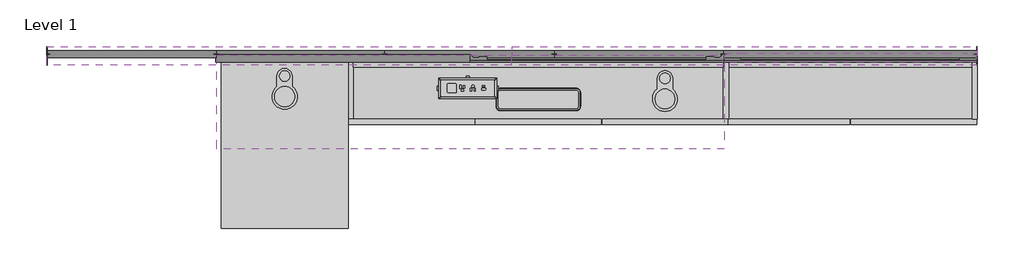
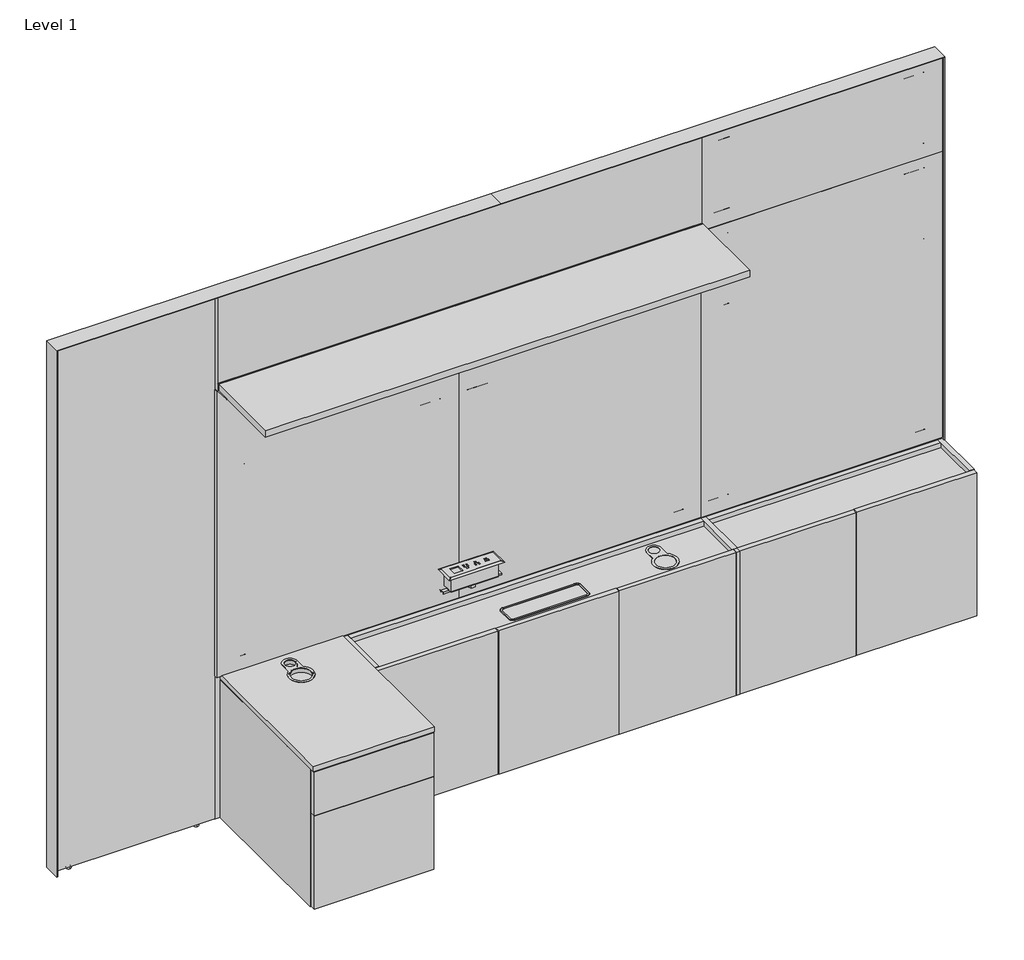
# One storey, incomplete: 19 furniture elements.
"""IFC4 building model written with IfcOpenShell, lengths in millimetres."""

from ifc_helpers import new_model, si_unit, origin, place, context, project, spatial, transform, mapped, element, save
from components import furniture_a66f4f8e, furniture_62f48795, furniture_27fb7ee5, furniture_565fbe1d, furniture_c23576bc, furniture_d3c6f52b, furniture_e45f25e7, furniture_9a9e18b9, furniture_a181dc65, furniture_5eae95e6, furniture_95511676, furniture_5a98c0b4, in_surface_33791ff7

model = new_model("IFC4")

# Units and contexts
model_context = context("Model", 3, world=origin())
ifc_project = project(units=[si_unit("LENGTHUNIT", "METRE", prefix="MILLI")], contexts=[model_context])

# Site, building, storey
site = spatial("IfcSite", under=ifc_project)
building = spatial("IfcBuilding", under=site)
storey = spatial("IfcBuildingStorey", under=building, Name="Level 1", Elevation=0.0)

# Furniture
placement = place(None, origin())
furniture_shape = furniture_a66f4f8e(model_context)
element("IfcFurniture", 1, ObjectType="Geiger_GeigerOneCasegoods_WallFrameStandardApplication : 24Wx1Dx82.5H", at=placement, inside=storey, context=model_context, shape_type="MappedRepresentation", body=[
    mapped(furniture_shape, transform((-336.603929, 19534.5743264, -2.4667457), x_axis=(1.0, 0.0, 0.0), y_axis=(0.0, 1.0, 0.0), z_axis=(0.0, 0.0, 1.0))),
])
element("IfcFurniture", 2, ObjectType="Geiger_GeigerOneCasegoods_WallFrameStandardApplication : 24Wx1Dx82.5H", at=placement, inside=storey, context=model_context, shape_type="MappedRepresentation", body=[
    mapped(furniture_shape, transform((272.996071, 19534.5743264, -2.4667457), x_axis=(1.0, 0.0, 0.0), y_axis=(0.0, 1.0, 0.0), z_axis=(0.0, 0.0, 1.0))),
])
element("IfcFurniture", 3, ObjectType="Geiger_GeigerOneCasegoods_WallFrameStandardApplication : 24Wx1Dx82.5H", at=placement, inside=storey, context=model_context, shape_type="MappedRepresentation", body=[
    mapped(furniture_shape, transform((-946.203929, 19534.5743264, -2.4667457), x_axis=(1.0, 0.0, 0.0), y_axis=(0.0, 1.0, 0.0), z_axis=(0.0, 0.0, 1.0))),
])
element("IfcFurniture", 4, ObjectType="Geiger_GeigerOneCasegoods_WallFrameStandardApplication : 24Wx1Dx82.5H", at=placement, inside=storey, context=model_context, shape_type="MappedRepresentation", body=[
    mapped(furniture_shape, transform((-1552.9750977, 19534.5743264, -2.4667457), x_axis=(1.0, 0.0, 0.0), y_axis=(0.0, 1.0, 0.0), z_axis=(0.0, 0.0, 1.0))),
])
furniture_2_shape = furniture_62f48795(model_context)
element("IfcFurniture", 5, ObjectType="Geiger_GeigerOneCasegoods_WallFrameStandardApplication : 36Wx1Dx82.5H", at=placement, inside=storey, context=model_context, shape_type="MappedRepresentation", body=[
    mapped(furniture_2_shape, transform((882.596071, 19534.5743264, -2.4667457), x_axis=(1.0, 0.0, 0.0), y_axis=(0.0, 1.0, 0.0), z_axis=(0.0, 0.0, 1.0))),
])
furniture_3_shape = furniture_27fb7ee5(model_context)
element("IfcFurniture", 6, ObjectType="Geiger_GeigerOneCasegoods_OverheadStorageSingleShelfFullBackPanel : TFL 72Wx 13.375Dx 14.875H", at=placement, inside=storey, context=model_context, shape_type="MappedRepresentation", body=[
    mapped(furniture_3_shape, transform((-943.0214769, 19524.8684599, 1726.7332543), x_axis=(1.0, 0.0, 0.0), y_axis=(0.0, 1.0, 0.0), z_axis=(0.0, 0.0, 1.0))),
])
furniture_4_shape = furniture_565fbe1d(model_context)
element("IfcFurniture", 7, ObjectType="Geiger_GeigerOneCasegoods_WallTileTopTileorWallMounted : TFL 36Wx 1.25Dx 15H", at=placement, inside=storey, context=model_context, shape_type="MappedRepresentation", body=[
    mapped(furniture_4_shape, transform((880.5389129, 19519.2922009, 1725.7332543), x_axis=(1.0, 0.0, 0.0), y_axis=(0.0, 1.0, 0.0), z_axis=(0.0, 0.0, 1.0))),
])
furniture_5_shape = furniture_c23576bc(model_context)
element("IfcFurniture", 8, ObjectType="Geiger_GeigerOneCasegoods_LowStorage1Box1File : TFL 18Wx24Dx21.75H", at=placement, inside=storey, context=model_context, shape_type="MappedRepresentation", body=[
    mapped(furniture_5_shape, transform((-925.6134202, 19503.7842194, 0.0), x_axis=(1.0, 0.0, 0.0), y_axis=(0.0, 1.0, 0.0), z_axis=(0.0, 0.0, 1.0))),
])
furniture_6_shape = furniture_d3c6f52b(model_context)
element("IfcFurniture", 9, ObjectType="Geiger_GeigerOneCasegoods_CredenzaTopLowHeightWithLegGrommet : TFL 18Wx 24Dx 0.75H", at=placement, inside=storey, context=model_context, shape_type="MappedRepresentation", body=[
    mapped(furniture_6_shape, transform((-926.5112238, 19504.1242194, 565.404), x_axis=(1.0, 0.0, 0.0), y_axis=(0.0, 1.0, 0.0), z_axis=(0.0, 0.0, 1.0))),
])
furniture_7_shape = furniture_e45f25e7(model_context)
element("IfcFurniture", 10, ObjectType="Geiger_GeigerOneCasegoods_UtilityCabinetForUseWithCredenzaDeskAccepts0Legs : TFL Case 36Wx 8.875Dx 22.5H", at=placement, inside=storey, context=model_context, shape_type="MappedRepresentation", body=[
    mapped(furniture_7_shape, transform((882.596071, 19494.1499891, -4.7), x_axis=(1.0, 0.0, 0.0), y_axis=(0.0, 1.0, 0.0), z_axis=(0.0, 0.0, 1.0))),
])
furniture_8_shape = furniture_9a9e18b9(model_context)
element("IfcFurniture", 11, ObjectType="Geiger_GeigerOneCasegoods_WallEndTrim : SingleSided 2.625Wx 0.125Dx 82.625H", at=placement, inside=storey, context=model_context, shape_type="MappedRepresentation", body=[
    mapped(furniture_8_shape, transform((1794.2309942, 19516.4915221, 7.0582543), x_axis=(1.0, 0.0, 0.0), y_axis=(0.0, 1.0, 0.0), z_axis=(0.0, 0.0, 1.0))),
])
element("IfcFurniture", 12, ObjectType="Geiger_GeigerOneCasegoods_WallEndTrim : SingleSided 2.625Wx 0.125Dx 82.625H", at=placement, inside=storey, context=model_context, shape_type="MappedRepresentation", body=[
    mapped(furniture_8_shape, transform((-1555.3940058, 19516.4915221, 7.0582543), x_axis=(1.0, 0.0, 0.0), y_axis=(0.0, 1.0, 0.0), z_axis=(0.0, 0.0, 1.0))),
])
furniture_9_shape = furniture_a181dc65(model_context)
element("IfcFurniture", 13, ObjectType="Geiger_GeigerOneCasegoods_WallTopTrimSingleSidedWall : 66Wx2.625Dx0.125H", at=placement, inside=storey, context=model_context, shape_type="MappedRepresentation", body=[
    mapped(furniture_9_shape, transform((121.0059942, 19516.1540221, 2105.7332543), x_axis=(1.0, 0.0, 0.0), y_axis=(0.0, 1.0, 0.0), z_axis=(0.0, 0.0, 1.0))),
])
element("IfcFurniture", 14, ObjectType="Geiger_GeigerOneCasegoods_WallTopTrimSingleSidedWall : 66Wx2.625Dx0.125H", at=placement, inside=storey, context=model_context, shape_type="MappedRepresentation", body=[
    mapped(furniture_9_shape, transform((-1555.3940058, 19516.1540221, 2105.7332543), x_axis=(1.0, 0.0, 0.0), y_axis=(0.0, 1.0, 0.0), z_axis=(0.0, 0.0, 1.0))),
])
furniture_10_shape = furniture_5eae95e6(model_context)
element("IfcFurniture", 15, ObjectType="Geiger_GeigerOneCasegoods_WallTileTopTileorWallMountedPaintedGla : 36Wx 1.25Dx 45H", at=placement, inside=storey, context=model_context, shape_type="MappedRepresentation", body=[
    mapped(furniture_10_shape, transform((880.4614202, 19519.2747717, 583.0965155), x_axis=(1.0, 0.0, 0.0), y_axis=(0.0, 1.0, 0.0), z_axis=(0.0, 0.0, 1.0))),
])
furniture_11_shape = furniture_95511676(model_context)
element("IfcFurniture", 16, ObjectType="Geiger_GeigerOneCasegoods_WallTileAcceptsTileAboveFabric : Fabric 36Wx 1.25Dx 45H", at=placement, inside=storey, context=model_context, shape_type="MappedRepresentation", body=[
    mapped(furniture_11_shape, transform((-945.641282, 19526.1755717, 582.8054819), x_axis=(1.0, 0.0, 0.0), y_axis=(0.0, 1.0, 0.0), z_axis=(0.0, 0.0, 1.0))),
])
element("IfcFurniture", 17, ObjectType="Geiger_GeigerOneCasegoods_WallTileTopTileorWallMountedPaintedGla : 36Wx 1.25Dx 45H", at=placement, inside=storey, context=model_context, shape_type="MappedRepresentation", body=[
    mapped(furniture_10_shape, transform((-31.241282, 19519.2747717, 583.0965155), x_axis=(1.0, 0.0, 0.0), y_axis=(0.0, 1.0, 0.0), z_axis=(0.0, 0.0, 1.0))),
])
furniture_12_shape = furniture_5a98c0b4(model_context)
element("IfcFurniture", 18, ObjectType="Geiger_GeigerOneCasegoods_UtilityCabinetForUseWithCredenzaDeskAccepts1Leg : TFL Case 54Wx 8.875Dx 22.5H", at=placement, inside=storey, context=model_context, shape_type="MappedRepresentation", body=[
    mapped(furniture_12_shape, transform((-470.003929, 19494.1499891, -4.7), x_axis=(1.0, 0.0, 0.0), y_axis=(0.0, 1.0, 0.0), z_axis=(0.0, 0.0, 1.0))),
])
in_surface_shape = in_surface_33791ff7(model_context)
element("IfcFurniture", 19, ObjectType="Geiger_GeigerOneCasegoods_PowerComponent2PowerOutlets1USBA1USBC : In Surface", at=placement, inside=storey, context=model_context, shape_type="MappedRepresentation", body=[
    mapped(in_surface_shape, transform((-38.6189946, 19399.1733754, 769.5946), x_axis=(1.0, 0.0, 0.0), y_axis=(0.0, 1.0, 0.0), z_axis=(0.0, 0.0, 1.0))),
])

save(model, "model.ifc")
